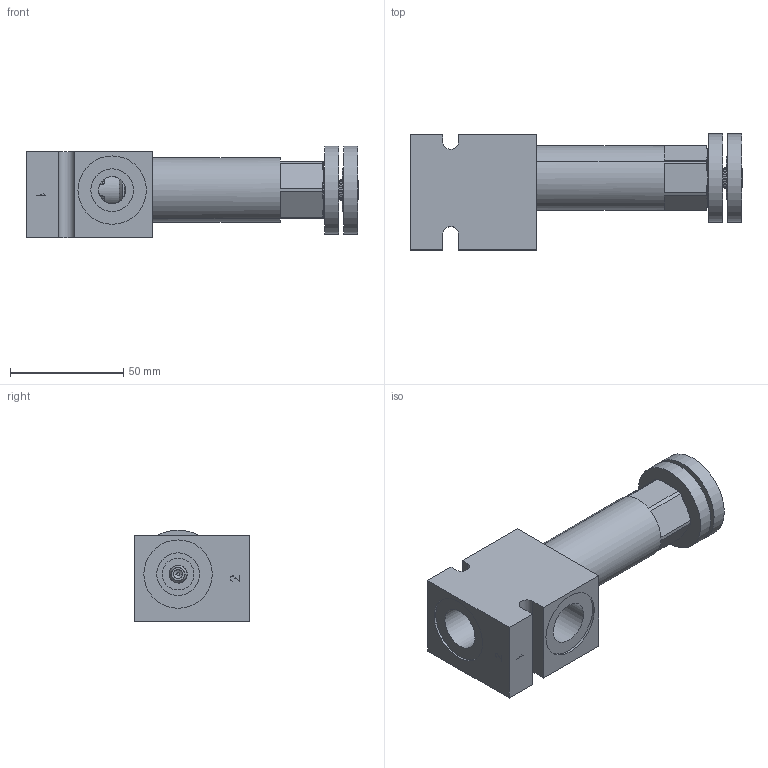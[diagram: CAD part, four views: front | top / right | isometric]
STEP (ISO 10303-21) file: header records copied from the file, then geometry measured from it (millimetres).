
FILE_DESCRIPTION( ( 'Unknown' ), '1' );
FILE_NAME( 'G:/Graphic Design/Graphic Design 2/Data Sheets/PRESSURE CONTROLS/2_STEP/Crossover Relief Valves/D-DERVB00-C2.stp', 'Unknown', ( 'Unknown' ), ( 'Unknown' ), 'PSStep 16.0.42', 'Unknown', ' ' );
FILE_SCHEMA( ( 'AUTOMOTIVE_DESIGN { 1 0 10303 214 1 1 1 1 }' ) );
Length unit declared in the file: millimetre
Products named in the file (11): DERVB0K; DERVB0K-3D Full1; DERVB0K-3D Full2; DERVB0K-3D Full3; DERVB0K-3D Full5; DERVB0K-3D Full6; DERVB0K-3D Full7; DERVB0K-3D Full4; Assem1; B-DDEC2
Assembly tree (10 placements, depth 3):
  Assem1
    B-DDEC2
    DERVB0K
      DERVB0K-3D Full1
      DERVB0K-3D Full2
      DERVB0K-3D Full3
      DERVB0K-3D Full5
      DERVB0K-3D Full6
      DERVB0K-3D Full7
      DERVB0K-3D Full4
      DERVB0K-3D Full4
Bounding box: 146.44 x 51.13 x 40.53 mm (x, y, z)
Surface area: 38354.4 mm2 (no closed solid volume)
Topology: 0 solids, 338 shells, 338 faces, 1496 edges, 1460 vertices
Faces by surface type: cone 161, plane 109, cylinder 66, torus 2
Full cylindrical faces by diameter (mm): 0.2 x2, 9.525 x2, 12 x1, 13.03 x2, 14 x1, 15.723 x2, 15.9 x1, 17.043 x1, 18.8 x4, 19.05 x2, 20.262 x2, 30.17 x2, 30.175 x1, 38.862 x2
Entity records: 21616 total; most frequent: CARTESIAN_POINT 8078, DIRECTION 2066, VERTEX_POINT 1450, ORIENTED_EDGE 1448, EDGE_CURVE 1448, AXIS2_PLACEMENT_3D 774, LINE 518, VECTOR 518
